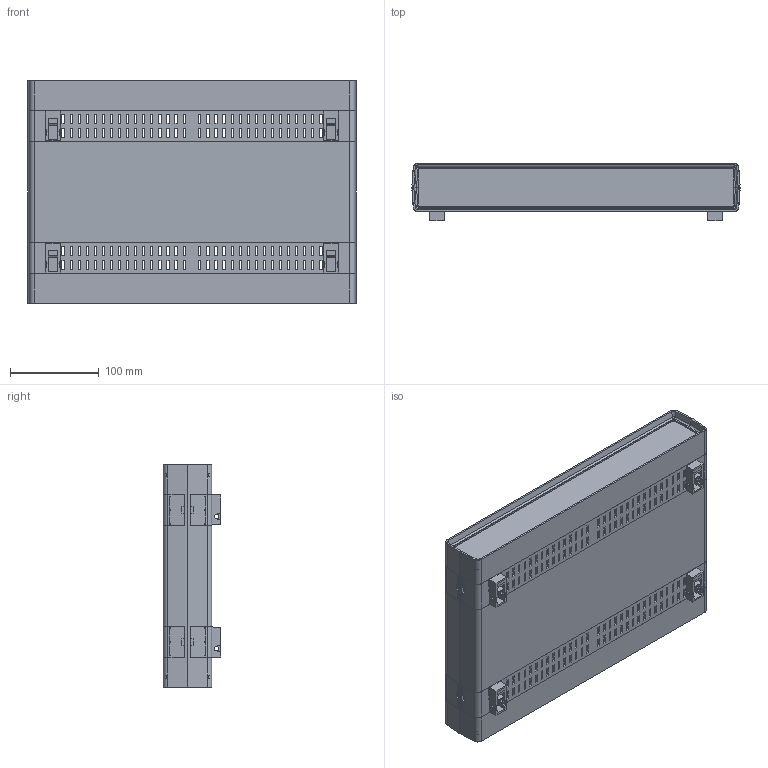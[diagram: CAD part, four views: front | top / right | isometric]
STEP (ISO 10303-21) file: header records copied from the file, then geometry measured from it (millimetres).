
FILE_DESCRIPTION (( 'STEP AP214' ), '1' );
FILE_NAME ('EM-10-V.STEP', '2020-09-14T22:44:44', ( 'Rudy' ), ( '' ), 'SwSTEP 2.0', 'SolidWorks 2014', '' );
FILE_SCHEMA (( 'AUTOMOTIVE_DESIGN' ));
Length unit declared in the file: millimetre
Products named in the file (5): AET-020; AET-013; EPM-10; 15 inch Euro Tech; EM-10-V
Assembly tree (8 placements, depth 2):
  EM-10-V
    15 inch Euro Tech  x2
    EPM-10  x2
    AET-013  x2
    AET-020  x2
Bounding box: 368.68 x 64.64 x 250.19 mm (x, y, z)
Volume: 876302.9 mm3; surface area: 770840.2 mm2
Topology: 20 solids, 20 shells, 6304 faces, 18160 edges, 12066 vertices
Faces by surface type: plane 5504, cylinder 532, cone 232, torus 32, sphere 4
Entity records: 103804 total; most frequent: CARTESIAN_POINT 19098, ORIENTED_EDGE 18148, DIRECTION 16212, EDGE_CURVE 9074, LINE 7722, VECTOR 7722, VERTEX_POINT 6029, AXIS2_PLACEMENT_3D 4245
